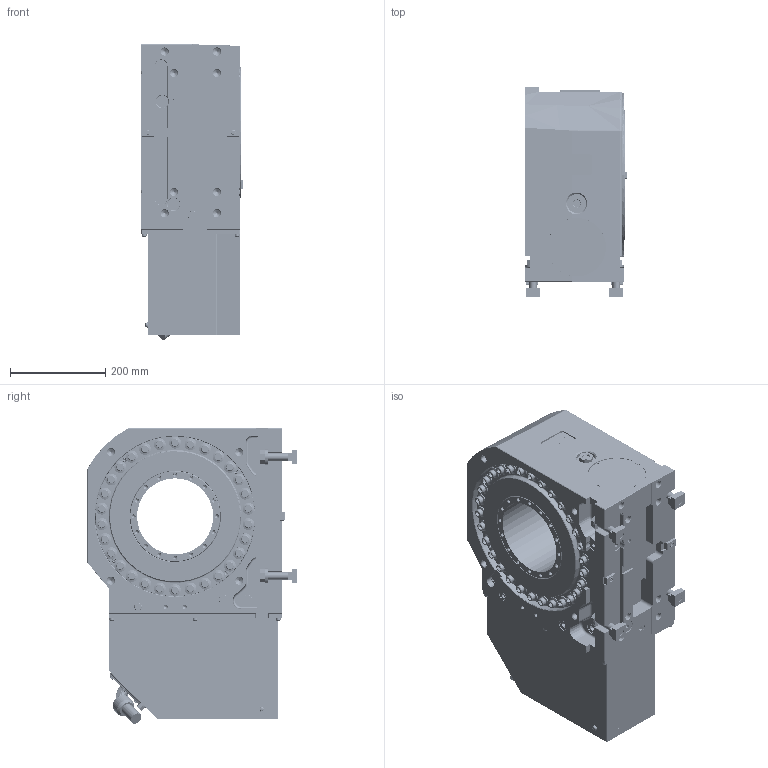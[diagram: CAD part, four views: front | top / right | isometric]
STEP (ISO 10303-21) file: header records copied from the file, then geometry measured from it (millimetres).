
FILE_DESCRIPTION (( 'STEP AP214' ), '1' );
FILE_NAME ('OUTSIDE_VIEW(61E2896160)MK350RHV00.STEP', '2021-10-14T22:17:25', ( '' ), ( '' ), 'SwSTEP 2.0', 'SolidWorks 2020', '' );
FILE_SCHEMA (( 'AUTOMOTIVE_DESIGN' ));
Length unit declared in the file: millimetre
Products named in the file (5): OUTSIDE_VIEW(61E2896160)MK350RHV00; TABLE_MK350LH00; クランプクミタテ(61E488758); 儌乕僞働乕僗PAD_MK350RHV00; BODY_MK350RH00
Assembly tree (7 placements, depth 2):
  OUTSIDE_VIEW(61E2896160)MK350RHV00
    BODY_MK350RH00
    TABLE_MK350LH00
    儌乕僞働乕僗PAD_MK350RHV00
    クランプクミタテ(61E488758)  x4
Bounding box: 215 x 441 x 621.2 mm (x, y, z)
Volume: 37362640 mm3; surface area: 1786946.1 mm2
Topology: 7 solids, 95 shells, 5078 faces, 12669 edges, 7937 vertices
Faces by surface type: plane 2758, cylinder 1254, cone 970, torus 57, bspline 20, sphere 19
Entity records: 152736 total; most frequent: CARTESIAN_POINT 31039, DIRECTION 25025, ORIENTED_EDGE 24402, EDGE_CURVE 12201, VECTOR 8349, LINE 8349, AXIS2_PLACEMENT_3D 8338, VERTEX_POINT 7781
